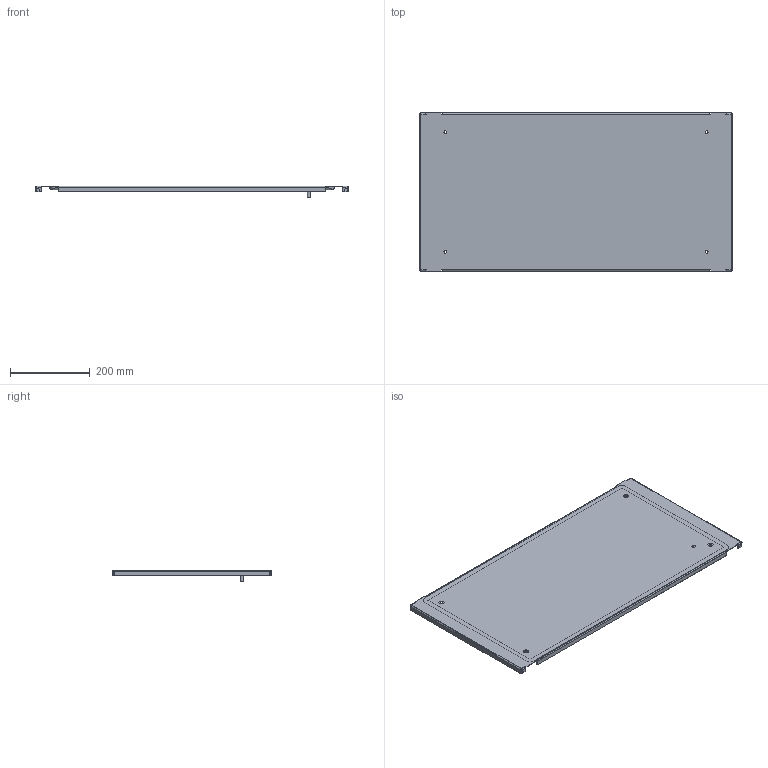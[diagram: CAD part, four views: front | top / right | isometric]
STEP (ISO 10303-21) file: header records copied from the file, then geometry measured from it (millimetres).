
FILE_DESCRIPTION(('STEP AP203'), '1');
FILE_NAME('Ïàíåëü ëèöåâàÿ ãëóõàÿ 400õ800 ìì OptiBox M 419490 ÊÝÀÇ', '', ('UNSPECIFIED'), ('UNSPECIFIED'), 'C3D Converter', 'C3D Toolkit', '');
FILE_SCHEMA(('CONFIG_CONTROL_DESIGN'));
Length unit declared in the file: millimetre
Bounding box: 786.4 x 397 x 28.9 mm (x, y, z)
Volume: 624903.5 mm3; surface area: 750486.2 mm2
Topology: 3 solids, 3 shells, 168 faces, 385 edges, 230 vertices
Faces by surface type: plane 109, cylinder 51, bspline 8
Full cylindrical faces by diameter (mm): 0.75 x1, 1 x1, 5 x2, 7.3 x4, 8 x1, 9.3 x1, 13 x1, 13.5 x4
Entity records: 5740 total; most frequent: CARTESIAN_POINT 2005, ORIENTED_EDGE 740, DIRECTION 726, EDGE_CURVE 370, LINE 264, VECTOR 264, AXIS2_PLACEMENT_3D 231, VERTEX_POINT 230
